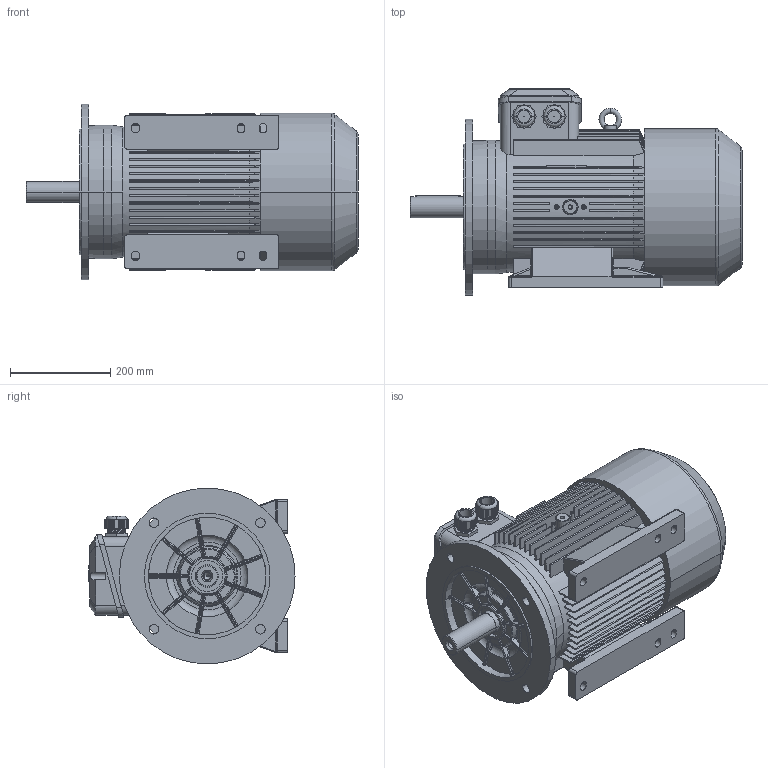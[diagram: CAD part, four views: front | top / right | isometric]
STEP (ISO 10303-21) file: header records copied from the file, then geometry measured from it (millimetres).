
FILE_DESCRIPTION (( 'STEP AP214' ), '1' );
FILE_NAME ('MAP160L4A IM2041 A350 FF300.STEP', '2021-01-15T10:18:21', ( '' ), ( '' ), 'SwSTEP 2.0', 'SolidWorks 2018', '' );
FILE_SCHEMA (( 'AUTOMOTIVE_DESIGN' ));
Length unit declared in the file: millimetre
Products named in the file (1): MAP160L4A IM2041 A350 FF300
Bounding box: 661 x 410.47 x 350 mm (x, y, z)
Volume: 39007445.2 mm3; surface area: 1565854.8 mm2
Topology: 1 solids, 11 shells, 1912 faces, 5025 edges, 3157 vertices
Faces by surface type: plane 1042, cylinder 382, bspline 218, cone 121, torus 83, sphere 66
Entity records: 80502 total; most frequent: CARTESIAN_POINT 35395, ORIENTED_EDGE 9978, DIRECTION 8640, EDGE_CURVE 4989, VERTEX_POINT 3157, VECTOR 2960, LINE 2960, AXIS2_PLACEMENT_3D 2840
